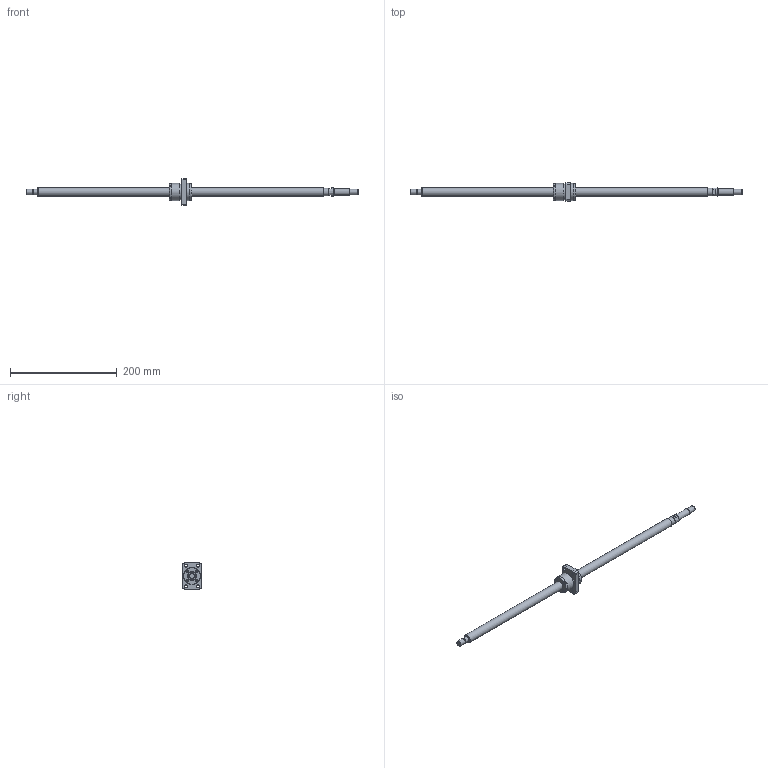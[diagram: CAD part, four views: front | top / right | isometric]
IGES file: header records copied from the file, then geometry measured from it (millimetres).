
Start section: Data from Parasolid IGES Translator 26.0.171, Copyright(c) 2006 Siemens PLM Software. All Rights Reserved.
Global section: file name: BNK1616-3.6G0+621LC5Y(2880).igs; native system: By Siemens PLM Incorporated; preprocessor: XPlus GENERIC/IGES 26.0.171; author: Noname; organization: Noname; date: 20240709.093048; units: millimetre
Bounding box: 621 x 34 x 50 mm (x, y, z)
Surface area: 41830.5 mm2 (no closed solid volume)
Topology: 0 solids, 0 shells, 139 faces, 647 edges, 588 vertices
Faces by surface type: extrusion 75, revolution 64
